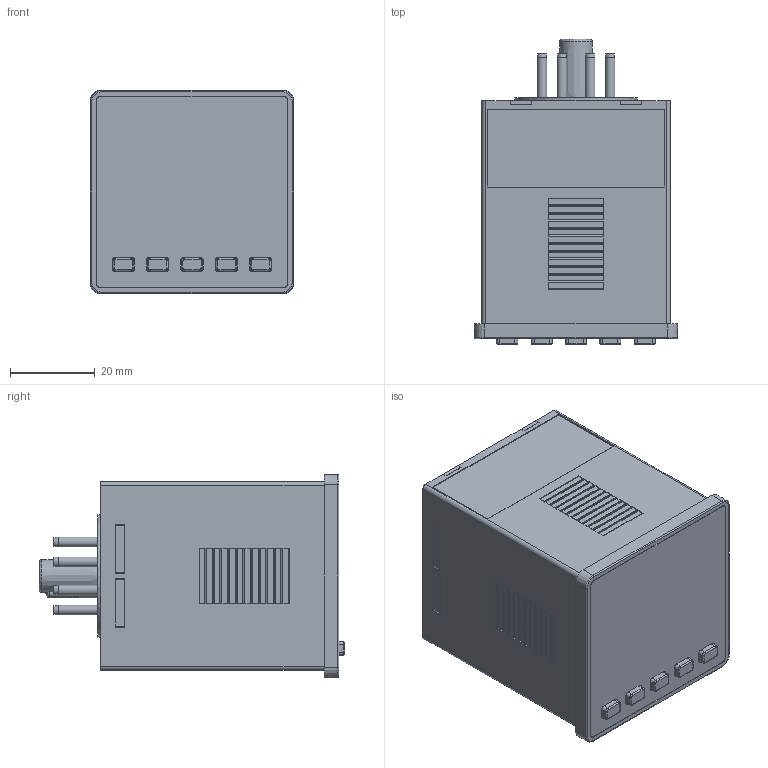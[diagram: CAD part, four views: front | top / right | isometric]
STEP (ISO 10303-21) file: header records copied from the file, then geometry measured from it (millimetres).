
FILE_DESCRIPTION(('STEP AP203'),'1');
FILE_NAME('LT4.stp','2023-06-13T01:28:05',(' '),(' '),'Spatial InterOp 3D',' ',' ');
FILE_SCHEMA(('CONFIG_CONTROL_DESIGN'));
Length unit declared in the file: millimetre
Products named in the file (6): IDX4 KEY ASSY; KEY_20171019; LT4; BODY; SOCKET PIN; WINDOW
Assembly tree (9 placements, depth 3):
  LT4
    IDX4 KEY ASSY
      KEY_20171019  x5
    BODY
    SOCKET PIN
    WINDOW
Bounding box: 48 x 72.06 x 48 mm (x, y, z)
Volume: 110067.8 mm3; surface area: 23215.7 mm2
Topology: 15 solids, 15 shells, 938 faces, 2275 edges, 1464 vertices
Faces by surface type: plane 612, cylinder 176, bspline 75, cone 43, torus 32
Full cylindrical faces by diameter (mm): 1.5 x8, 2.3 x16, 3.9 x8, 29 x1
Entity records: 26380 total; most frequent: CARTESIAN_POINT 7635, ORIENTED_EDGE 3776, DIRECTION 3567, EDGE_CURVE 1888, LINE 1473, VECTOR 1473, VERTEX_POINT 1259, AXIS2_PLACEMENT_3D 1047
